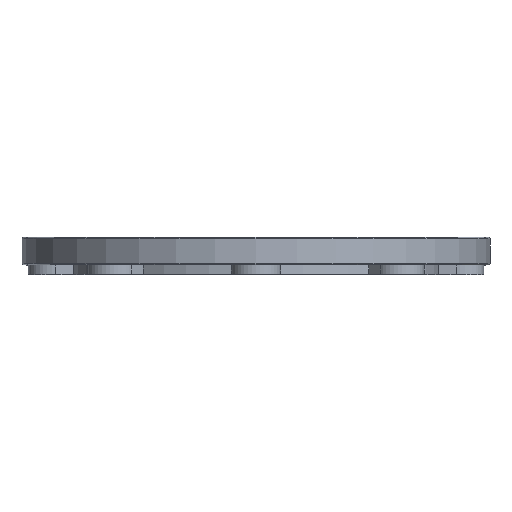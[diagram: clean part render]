
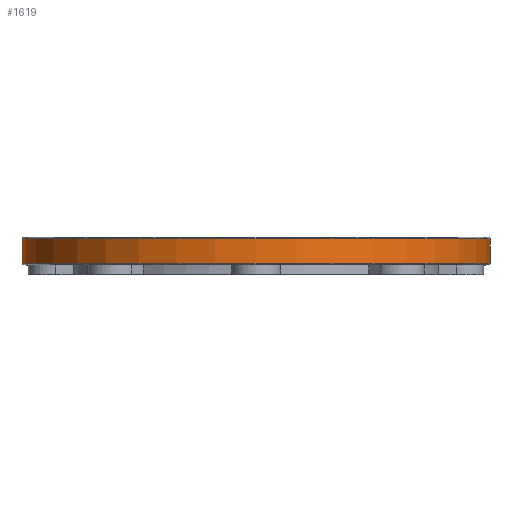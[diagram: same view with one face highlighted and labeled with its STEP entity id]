
A CAD part, top view. The second image highlights one B-rep face of the part: STEP entity #1619.
In plain terms, the highlighted cylindrical face has radius 170 mm (diameter 340 mm), a full revolution.
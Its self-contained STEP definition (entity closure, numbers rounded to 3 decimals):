
#333=ORIENTED_EDGE('',*,*,#779,.T.);
#334=ORIENTED_EDGE('',*,*,#780,.T.);
#779=EDGE_CURVE('',#1009,#1009,#1175,.T.);
#780=EDGE_CURVE('',#1010,#1010,#1176,.F.);
#1009=VERTEX_POINT('',#2543);
#1010=VERTEX_POINT('',#2545);
#1175=CIRCLE('',#1758,170.);
#1176=CIRCLE('',#1759,170.);
#1307=EDGE_LOOP('',(#333));
#1308=EDGE_LOOP('',(#334));
#1449=FACE_BOUND('',#1307,.T.);
#1450=FACE_BOUND('',#1308,.T.);
#1555=CYLINDRICAL_SURFACE('',#1757,170.);
#1619=ADVANCED_FACE('',(#1449,#1450),#1555,.T.);
#1757=AXIS2_PLACEMENT_3D('',#2541,#2024,#2025);
#1758=AXIS2_PLACEMENT_3D('',#2542,#2026,#2027);
#1759=AXIS2_PLACEMENT_3D('',#2544,#2028,#2029);
#2024=DIRECTION('',(0.,-1.,0.));
#2025=DIRECTION('',(0.,0.,-1.));
#2026=DIRECTION('',(0.,1.,0.));
#2027=DIRECTION('',(0.,0.,1.));
#2028=DIRECTION('',(0.,1.,0.));
#2029=DIRECTION('',(0.,0.,1.));
#2541=CARTESIAN_POINT('',(0.,20.,0.));
#2542=CARTESIAN_POINT('',(0.,1.,0.));
#2543=CARTESIAN_POINT('',(0.,1.,170.));
#2544=CARTESIAN_POINT('',(0.,19.,0.));
#2545=CARTESIAN_POINT('',(0.,19.,170.));
